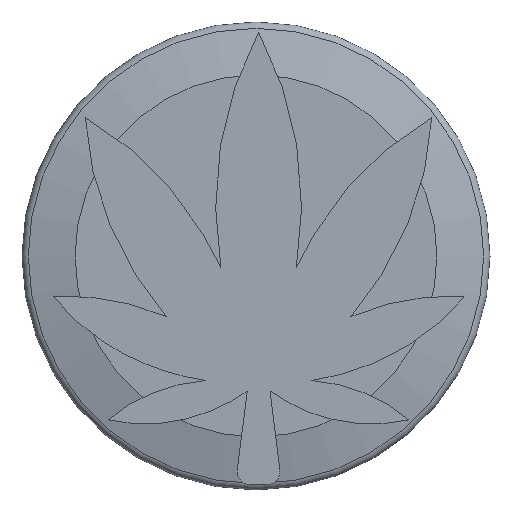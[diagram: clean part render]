
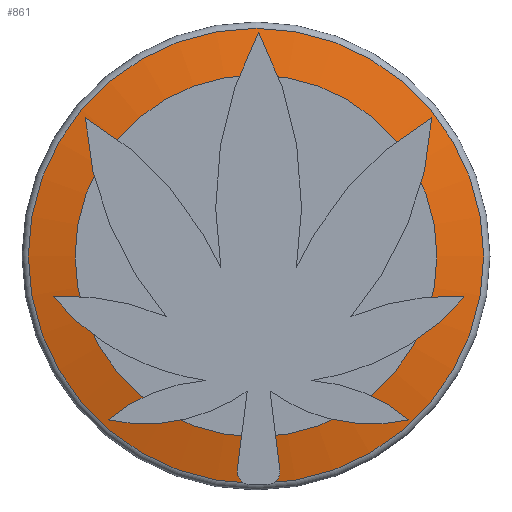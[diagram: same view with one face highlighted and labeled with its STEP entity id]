
A CAD part, top view. The second image highlights one B-rep face of the part: STEP entity #861.
In plain terms, the highlighted conical face has half-angle 77.125 degrees and reference radius 405 mm.
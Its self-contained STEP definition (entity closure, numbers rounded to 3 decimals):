
#20=CONICAL_SURFACE('',#913,405.,1.346);
#32=CIRCLE('',#895,445.86);
#41=CIRCLE('',#910,561.015);
#42=CIRCLE('',#911,561.015);
#153=FACE_OUTER_BOUND('',#201,.T.);
#201=EDGE_LOOP('',(#790,#791,#792,#793,#794));
#252=LINE('',#1684,#300);
#300=VECTOR('',#1037,405.);
#403=VERTEX_POINT('',#1597);
#415=VERTEX_POINT('',#1678);
#416=VERTEX_POINT('',#1679);
#524=EDGE_CURVE('',#403,#403,#32,.T.);
#541=EDGE_CURVE('',#415,#416,#41,.T.);
#542=EDGE_CURVE('',#416,#415,#42,.T.);
#544=EDGE_CURVE('',#403,#416,#252,.T.);
#790=ORIENTED_EDGE('',*,*,#524,.T.);
#791=ORIENTED_EDGE('',*,*,#544,.T.);
#792=ORIENTED_EDGE('',*,*,#541,.F.);
#793=ORIENTED_EDGE('',*,*,#542,.F.);
#794=ORIENTED_EDGE('',*,*,#544,.F.);
#861=ADVANCED_FACE('',(#153),#20,.T.);
#895=AXIS2_PLACEMENT_3D('',#1598,#993,#994);
#910=AXIS2_PLACEMENT_3D('',#1680,#1029,#1030);
#911=AXIS2_PLACEMENT_3D('',#1681,#1031,#1032);
#913=AXIS2_PLACEMENT_3D('',#1683,#1035,#1036);
#993=DIRECTION('center_axis',(0.,0.,-1.));
#994=DIRECTION('ref_axis',(-1.,0.,0.));
#1029=DIRECTION('center_axis',(0.,0.,-1.));
#1030=DIRECTION('ref_axis',(1.,0.,0.));
#1031=DIRECTION('center_axis',(0.,0.,-1.));
#1032=DIRECTION('ref_axis',(1.,0.,0.));
#1035=DIRECTION('center_axis',(0.,0.,-1.));
#1036=DIRECTION('ref_axis',(-1.,0.,0.));
#1037=DIRECTION('',(0.975,0.,-0.223));
#1597=CARTESIAN_POINT('',(445.86,0.,200.66));
#1598=CARTESIAN_POINT('Origin',(0.,0.,200.66));
#1678=CARTESIAN_POINT('',(-561.015,0.,174.34));
#1679=CARTESIAN_POINT('',(561.015,0.,174.34));
#1680=CARTESIAN_POINT('Origin',(0.,0.,174.34));
#1681=CARTESIAN_POINT('Origin',(0.,0.,174.34));
#1683=CARTESIAN_POINT('Origin',(0.,0.,210.));
#1684=CARTESIAN_POINT('',(405.,0.,210.));
